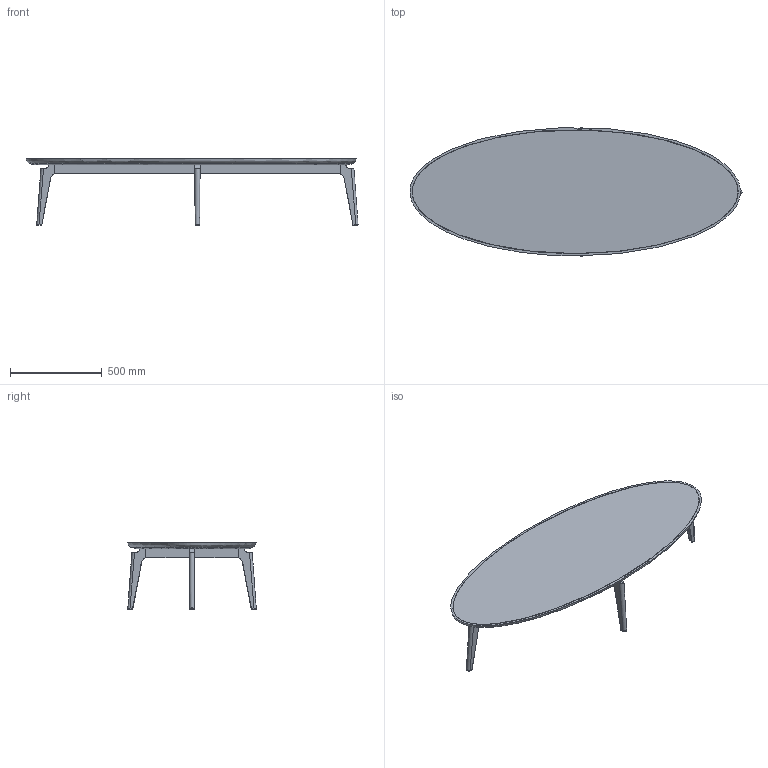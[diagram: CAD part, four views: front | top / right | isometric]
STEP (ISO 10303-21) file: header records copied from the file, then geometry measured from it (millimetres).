
FILE_DESCRIPTION(/* description */ (''),/* implementation_level */ '2;1');
FILE_NAME(/* name */ 'C:\Users\ronnie\Desktop\BLEND (Colombo)\56660-1-2-3-4 BLEND Oval (wood base).stp',/* time_stamp */ '2016-07-25T13:57:57+02:00',/* author */ ('ronnie'),/* organization */ (''),/* preprocessor_version */ 'ST-DEVELOPER v16.5',/* originating_system */ 'AutoCAD Mechanical',/* authorisation */ '');
FILE_SCHEMA (('AUTOMOTIVE_DESIGN { 1 0 10303 214 3 1 1 }'));
Length unit declared in the file: millimetre
Products named in the file (1): Product
Bounding box: 1808.59 x 700.32 x 362 mm (x, y, z)
Volume: 17536329.6 mm3; surface area: 3310093.2 mm2
Topology: 11 solids, 11 shells, 170 faces, 385 edges, 251 vertices
Faces by surface type: plane 92, cylinder 40, bspline 38
Full cylindrical faces by diameter (mm): 3 x8
Entity records: 7878 total; most frequent: CARTESIAN_POINT 4207, ORIENTED_EDGE 754, DIRECTION 694, EDGE_CURVE 377, VERTEX_POINT 251, AXIS2_PLACEMENT_3D 247, LINE 200, VECTOR 200
